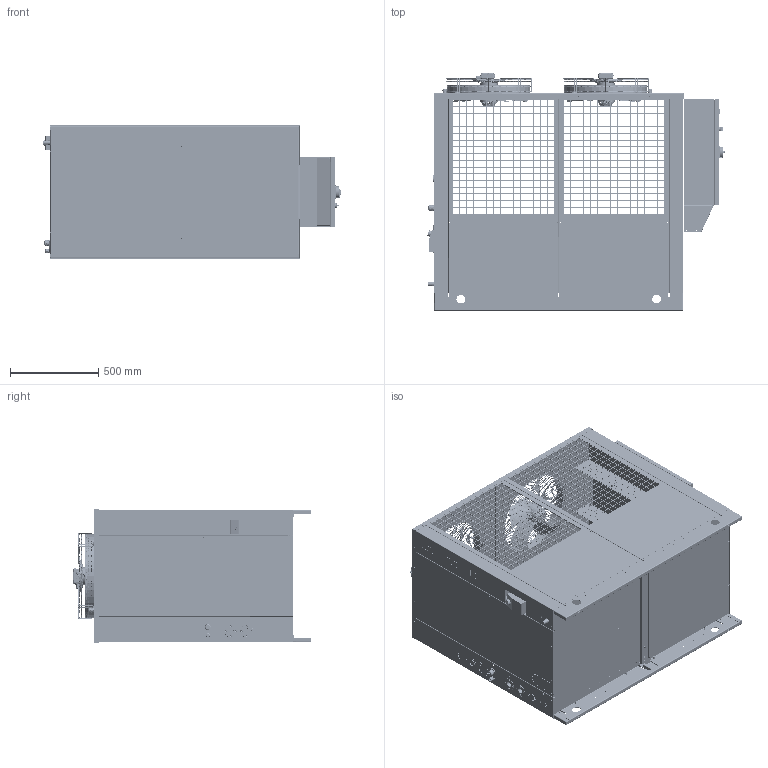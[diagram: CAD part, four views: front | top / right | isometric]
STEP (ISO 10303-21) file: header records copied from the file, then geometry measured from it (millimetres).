
FILE_DESCRIPTION (( 'STEP AP214' ), '1' );
FILE_NAME ('50-3D-00015 + UL-CSA.STEP', '2018-12-12T12:47:43', ( 'Utente' ), ( 'Microsoft' ), 'SwSTEP 2.0', 'SolidWorks 2013', '' );
FILE_SCHEMA (( 'AUTOMOTIVE_DESIGN' ));
Length unit declared in the file: millimetre
Products named in the file (61): CR-3D-00008_000; PG 13.5_2_Nut-PA-Grey-24-24-27-Nelco; RIVELOX M5; SW3dPS-rotary switch_Cowling; VR-3D-00021_000; VR-3D-00003_001; SW3dPS-rotary switch_Screw; CR-3D-00007_000; VR-2D-00008_001; SW3dPS-rotary switch_Indicator Plate; 50-3D-00015 + UL-CSA; SW3dPS-rotary switch_541-0057-B; VR-2D-00014_000; VR-2D-00005_001; TE-EL-00007 - EW_971_230V; QE 400x600x200; VR-2D-00013_001; CR-3D-00011_000; MA-N1-00001_MANOMETRO ACQUA 40mm 0-12 BAR; VR-2D-00012_000; CR-3D-00006_000; ST-AT-00020_003; Rivelox M5 Reduced Head Hexagonal Shank; pg-21 nelco_Cable-Gland-1.209.2100.15-Nelco; VR-2D-00011_000; Rivelox M5 Reduced Head Hexagonal Shank.; VR-3D-00015_001; pg-21 nelco_part2_Nut-PA-Grey-33-33-31-Nelco; VR-3D-00015_001B; VR-3D-00015_001A; pg-21 nelco_part1_Socket-1.209.2100.15-Nelco; CR-3D-00005_000; VR-2D-00034_001; CR-2D-00004_000; VR-3D-00004_001; QE 400x600x200 + COMPONENTI; CR-3D-00002_000; VE-W3-00001; Rivelox M5 Reduced Head Hexagonal Shank..; SELETTORE_NERO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
Assembly tree (157 placements, depth 4):
  50-3D-00015 + UL-CSA
    VR-3D-00003_001
      VR-3D-00003_001
      RIVELOX M5  x30
    VR-3D-00004_001
      VR-3D-00004_001
      Rivelox M5 Reduced Head Hexagonal Shank..  x4
    CR-3D-00005_000  x2
    VR-2D-00011_000
      VR-2D-00011_000
      Rivelox M5 Reduced Head Hexagonal Shank.  x8
    VR-2D-00012_000
      VR-2D-00012_000
      Rivelox M5 Reduced Head Hexagonal Shank.  x8
    VR-2D-00013_001
      VR-2D-00013_001
      Rivelox M5 Reduced Head Hexagonal Shank.  x5
    VR-2D-00014_000
      VR-2D-00014_000
      Rivelox M5 Reduced Head Hexagonal Shank.  x5
    CR-3D-00007_000
      CR-3D-00007_000
      Rivelox M5 Reduced Head Hexagonal Shank..  x4
    CR-3D-00008_000
      CR-3D-00008_000
      Rivelox M5 Reduced Head Hexagonal Shank..  x4
    CR-3D-00002_000
      CR-3D-00002_000
      Rivelox M5 Reduced Head Hexagonal Shank..  x6
      Rivelox M6 Reduced Head Hexagonal Shank  x4
      Welding stud DIN32501-1 M6X15 INOX
    CR-2D-00004_000
    VR-3D-00015_001
      VR-3D-00015_001A
      VR-3D-00015_001B  x2
    CR-3D-00006_000
      CR-3D-00006_000
      Rivelox M5 Reduced Head Hexagonal Shank  x4
    CR-3D-00011_000  x2
      CR-3D-00011_000
      Rivelox M5 Reduced Head Hexagonal Shank.
    VR-2D-00005_001  x4
      VR-2D-00005_001
      Rivelox M5 Reduced Head Hexagonal Shank.
    VR-2D-00008_001
      VR-2D-00008_001
      Rivelox M5 Reduced Head Hexagonal Shank.  x2
    VR-3D-00021_000
    PG 13.5_Cable-Gland-1.209.1300.14-Nelco  x3
      PG 13.5_2_Nut-PA-Grey-24-24-27-Nelco
      PG 13.5_1_Socket-1.209.1300.14-Nelco
    SE-RP-00013_FIGURINO
    VE-W3-00001  x2
    pg-21 nelco_Cable-Gland-1.209.2100.15-Nelco
      pg-21 nelco_part1_Socket-1.209.2100.15-Nelco
      pg-21 nelco_part2_Nut-PA-Grey-33-33-31-Nelco
    ST-AT-00020_003  x2
    MA-N1-00001_MANOMETRO ACQUA 40mm 0-12 BAR
    QE 400x600x200 + COMPONENTI
      QE 400x600x200
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Bounding box: 1682.04 x 1343.76 x 754.5 mm (x, y, z)
Volume: 14573671.7 mm3; surface area: 24529499 mm2
Topology: 155 solids, 386 shells, 15190 faces, 47892 edges, 32710 vertices
Faces by surface type: plane 8793, bspline 2743, cylinder 2629, cone 905, torus 120
Entity records: 446942 total; most frequent: CARTESIAN_POINT 225197, ORIENTED_EDGE 40933, DIRECTION 33726, EDGE_CURVE 23175, VERTEX_POINT 15799, LINE 12468, VECTOR 12468, AXIS2_PLACEMENT_3D 10629
